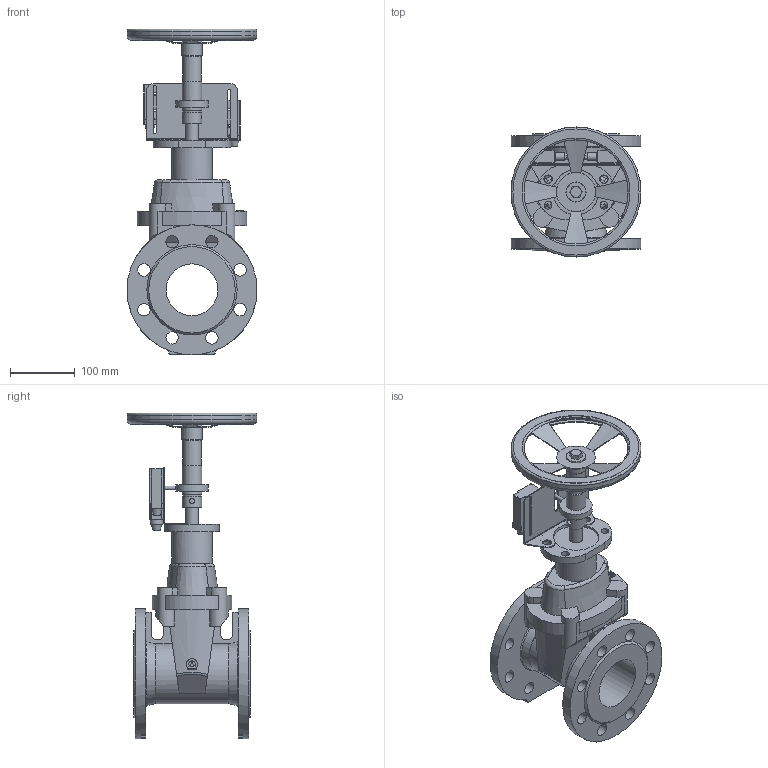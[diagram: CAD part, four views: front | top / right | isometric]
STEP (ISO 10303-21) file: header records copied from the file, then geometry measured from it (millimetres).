
FILE_DESCRIPTION(('STEP AP203'), '1');
FILE_NAME('Çàäâèæêà 47GV.M DN80 ñ ìàõîâèêîì è ÓÊÏ', '', ('UNSPECIFIED'), ('UNSPECIFIED'), 'ASCON STEP Converter 1.6', 'ASCON Math Kernel', '');
FILE_SCHEMA(('CONFIG_CONTROL_DESIGN'));
Length unit declared in the file: millimetre
Bounding box: 200 x 200 x 501 mm (x, y, z)
Volume: 3005818.2 mm3; surface area: 450456.3 mm2
Topology: 4 solids, 4 shells, 450 faces, 1126 edges, 703 vertices
Faces by surface type: plane 234, cylinder 164, cone 28, torus 18, sphere 4, bspline 2
Full cylindrical faces by diameter (mm): 4 x4, 4.917 x1, 6 x1, 8 x2, 12 x8, 13 x2, 14 x2, 19 x16, 20 x1, 27.8 x1, 28 x1, 30 x4, 31 x1, 50 x1, 62 x1, 70 x1, 80 x1, 163 x1, 197 x1, 200 x3
Entity records: 18856 total; most frequent: CARTESIAN_POINT 4514, DIRECTION 2290, ORIENTED_EDGE 2094, EDGE_CURVE 1047, AXIS2_PLACEMENT_3D 884, VERTEX_POINT 703, EDGE_LOOP 614, LINE 522
